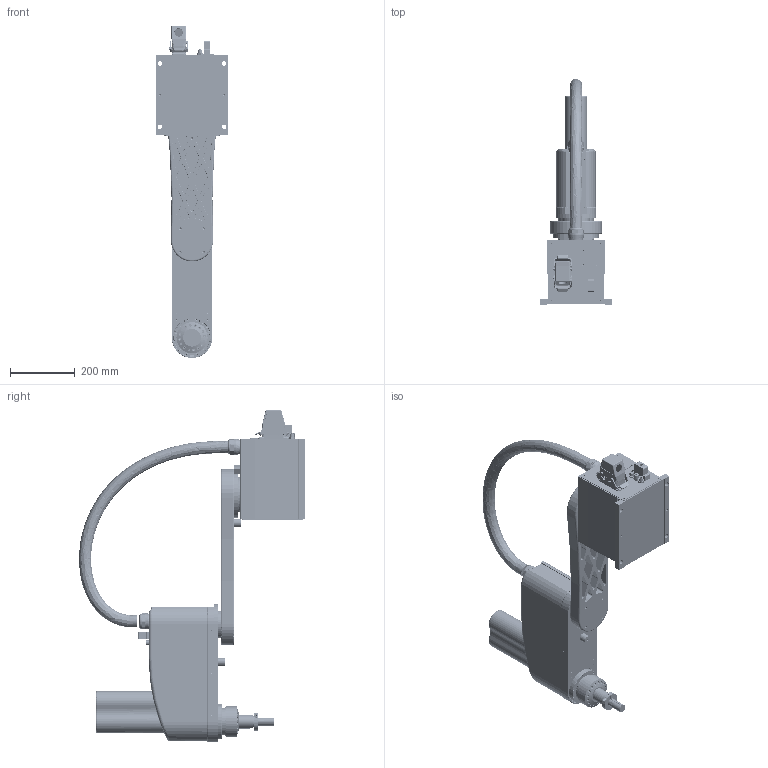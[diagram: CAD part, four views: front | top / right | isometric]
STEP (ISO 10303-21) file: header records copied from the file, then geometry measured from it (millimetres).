
FILE_DESCRIPTION (( 'STEP AP214' ), '1' );
FILE_NAME ('TKS605潠眢耀倰.STEP', '2018-09-27T07:41:22', ( 'wk' ), ( '' ), 'SwSTEP 2.0', 'SolidWorks 2017', '' );
FILE_SCHEMA (( 'AUTOMOTIVE_DESIGN' ));
Length unit declared in the file: millimetre
Products named in the file (6): TKS605潠眢耀倰; TKS605侐粣; TKS605珨粣; TKS605三轴; TKS605盄擢-700; TKS605媼粣-700
Assembly tree (5 placements, depth 2):
  TKS605潠眢耀倰
    TKS605三轴
    TKS605媼粣-700
    TKS605侐粣
    TKS605珨粣
    TKS605盄擢-700
Bounding box: 220 x 696.67 x 1023 mm (x, y, z)
Volume: 10211628.3 mm3; surface area: 2830454.4 mm2
Topology: 177 solids, 219 shells, 6663 faces, 16885 edges, 10445 vertices
Faces by surface type: cylinder 2820, plane 1849, cone 792, bspline 598, torus 308, sphere 296
Entity records: 312581 total; most frequent: CARTESIAN_POINT 79327, DIRECTION 33210, ORIENTED_EDGE 32550, EDGE_CURVE 16275, AXIS2_PLACEMENT_3D 13274, VERTEX_POINT 10445, EDGE_LOOP 8098, CIRCLE 7201
